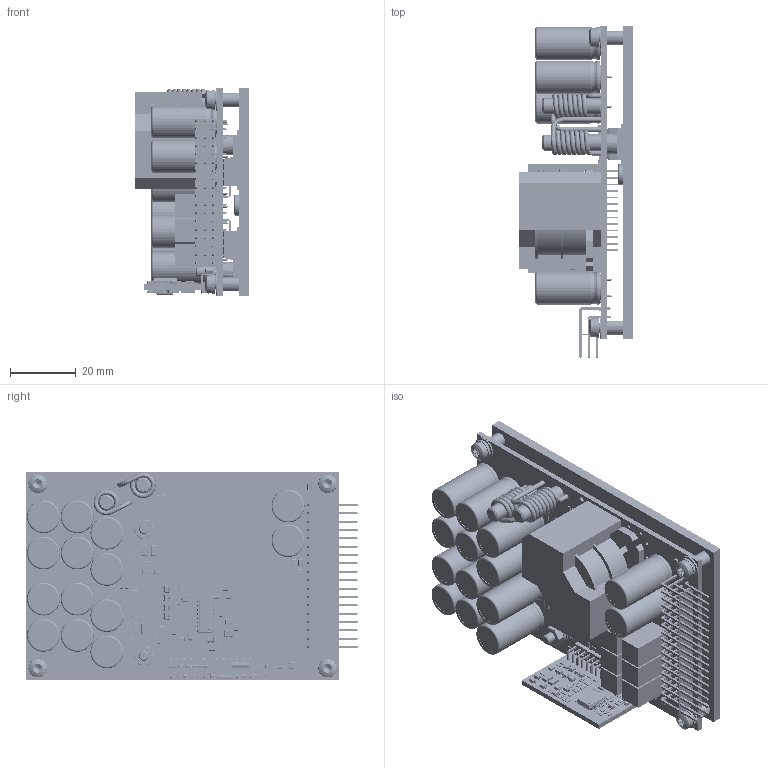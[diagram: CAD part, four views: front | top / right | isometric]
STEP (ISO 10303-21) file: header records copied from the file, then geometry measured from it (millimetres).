
FILE_DESCRIPTION(/* description */ ('Alibre Inc.'),/* implementation_level */ '2;1');
FILE_NAME(/* name */ 'export-709942C7-B39B-4434-8F9D-ADD17EF9C212',/* time_stamp */ '2021-12-16T11:38:02+01:00',/* author */ (''),/* organization */ (''),/* preprocessor_version */ 'ST-DEVELOPER v17',/* originating_system */ 'Alibre',/* authorisation */ '');
FILE_SCHEMA (('CONFIG_CONTROL_DESIGN'));
Products named in the file (389): Board; 7527176768; 7527176368; 7555979728; 7555979568; L2; R12; R11; R10; SOD323; D10; D9; SOT323; T8; T3; D5; 7555977408; U2; R9; J3; R61; C22; C19; R8; D8; D7; U1; R3; C12; C11; D1; R69; C60; U4; T28; R90; R54; D18; D17; D12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
Bounding box: 34.59 x 100.68 x 63 mm (x, y, z)
Volume: 80992.4 mm3; surface area: 69829.4 mm2
Topology: 457 solids, 473 shells, 25546 faces, 62431 edges, 37478 vertices
Faces by surface type: plane 11027, bspline 6324, cylinder 5959, sphere 1912, torus 180, cone 144
Full cylindrical faces by diameter (mm): 0.8 x54, 0.9 x94, 1 x12, 1.6 x6, 2.5 x4, 2.693 x4, 3 x6, 3.2 x20, 3.6 x2, 3.8 x1, 4.2 x8, 4.22 x1, 5.5 x2, 5.6 x4, 6 x4, 7 x6
Entity records: 249560 total; most frequent: CARTESIAN_POINT 61541, ORIENTED_EDGE 30536, DIRECTION 25322, EDGE_CURVE 15324, VECTOR 11467, LINE 11467, VERTEX_POINT 9737, AXIS2_PLACEMENT_3D 9143
